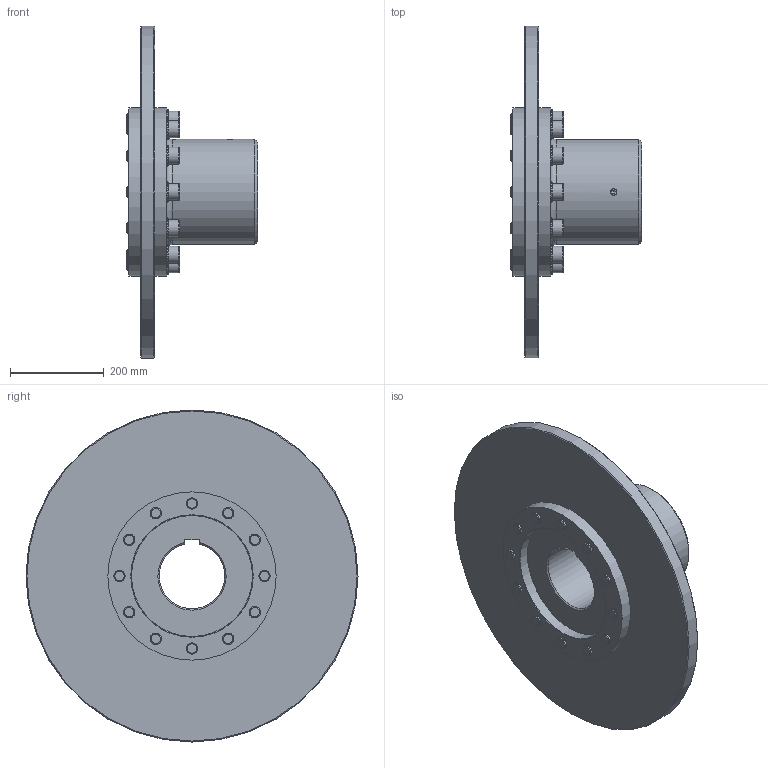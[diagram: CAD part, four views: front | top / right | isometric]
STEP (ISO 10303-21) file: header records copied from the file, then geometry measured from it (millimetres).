
FILE_DESCRIPTION(/* description */ (''),/* implementation_level */ '2;1');
FILE_NAME(/* name */ 'C:\Users\milman01\Desktop\step file\xxxxxx\46823.stp',/* time_stamp */ '2017-03-15T12:53:57+01:00',/* author */ ('milman01'),/* organization */ ('Hillmar Industries Ltd.'),/* preprocessor_version */ 'ST-DEVELOPER v16.1',/* originating_system */ 'Autodesk Inventor 2016',/* authorisation */ '');
FILE_SCHEMA (('AUTOMOTIVE_DESIGN { 1 0 10303 214 3 1 1 }'));
Length unit declared in the file: millimetre
Products named in the file (1): 46823_Shrinkwrap_1
Bounding box: 281 x 710 x 710 mm (x, y, z)
Volume: 19867738.6 mm3; surface area: 1322982.5 mm2
Topology: 1 solids, 15 shells, 327 faces, 692 edges, 446 vertices
Faces by surface type: plane 168, cylinder 83, cone 62, torus 14
Full cylindrical faces by diameter (mm): 13.835 x1, 24 x24, 25 x12, 26 x12, 36 x12, 44 x12, 225 x1, 260 x3, 360 x2, 710 x1
Entity records: 7875 total; most frequent: CARTESIAN_POINT 1407, DIRECTION 1292, ORIENTED_EDGE 972, EDGE_LOOP 562, AXIS2_PLACEMENT_3D 560, EDGE_CURVE 486, VERTEX_POINT 394, STYLED_ITEM 328
